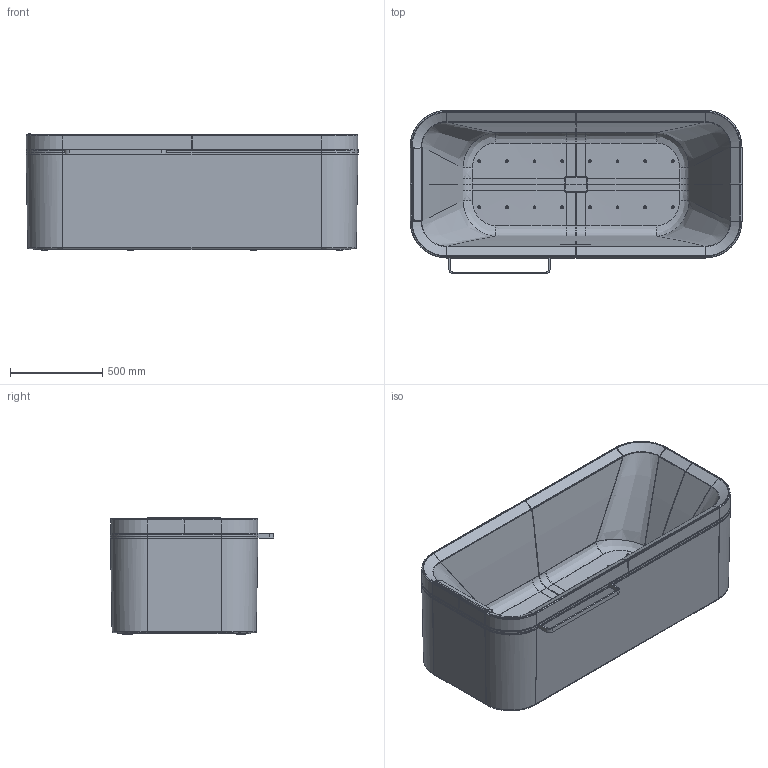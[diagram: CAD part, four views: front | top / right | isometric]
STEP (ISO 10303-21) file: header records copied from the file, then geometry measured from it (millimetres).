
FILE_DESCRIPTION(('STEP AP203'),'2;1');
FILE_NAME('DIVY1808CO0.stp','2017-07-25T10:17:04',(''),(''),'2016.1.120','THINKDESIGN','');
FILE_SCHEMA(('CONFIG_CONTROL_DESIGN'));
Length unit declared in the file: millimetre
Products named in the file (1): top
Bounding box: 1801.03 x 886.03 x 638.17 mm (x, y, z)
Volume: 17576000 mm3; surface area: 12578115.9 mm2
Topology: 25 solids, 25 shells, 1341 faces, 3308 edges, 2006 vertices
Faces by surface type: cylinder 492, plane 452, bspline 397
Entity records: 57561 total; most frequent: CARTESIAN_POINT 27712, ORIENTED_EDGE 6596, DIRECTION 5588, EDGE_CURVE 3298, VERTEX_POINT 2006, AXIS2_PLACEMENT_3D 1959, VECTOR 1670, LINE 1670
